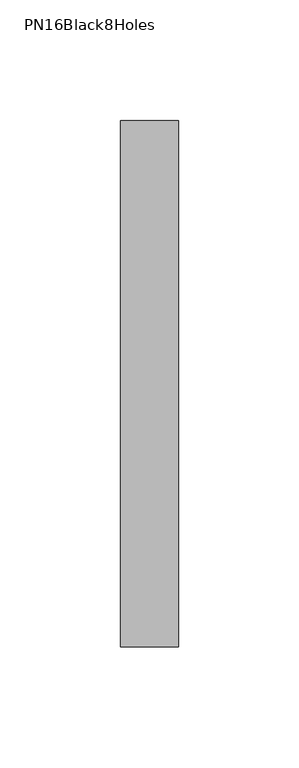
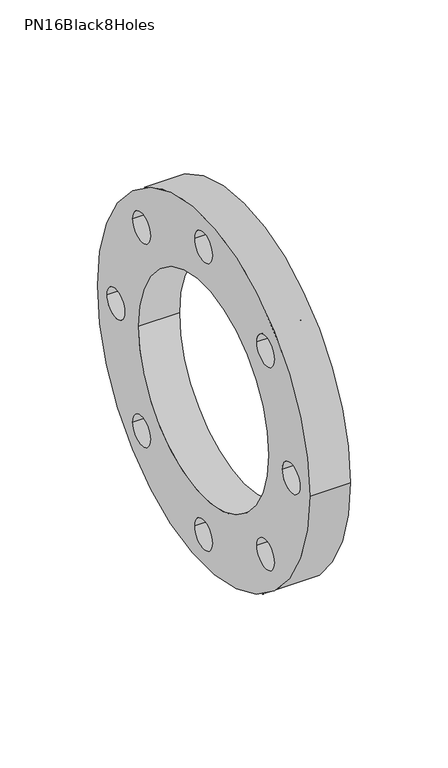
"""IFC4 building model written with IfcOpenShell, lengths in millimetres: pipe fitting geometry, PipeAccessory_GirpiHTA_CPVC_BackingRingsPN16Black8HolesFlangeAndGasket : PN16Black8Holes."""

from ifc_helpers import new_model, si_unit, point, frame, frame_2d, origin, origin_2d, place, context, project, spatial, circle_curve, trimmed, segment, composite_curve, outline, extrude, source, transform, mapped, element, save


def pn16black8holes_365e30ae(model_context):
    return source(origin(), model_context, "Body", "SweptSolid", [
        extrude(outline(composite_curve([segment(trimmed(circle_curve(origin_2d(), 109.0), [point((-109.0, 0.0))], [point((109.0, 0.0))], False, "CARTESIAN"), True, "CONTINUOUS"), segment(trimmed(circle_curve(origin_2d(), 109.0), [point((109.0, 0.0))], [point((-109.0, 0.0))], False, "CARTESIAN"), True, "CONTINUOUS")], self_intersect=False), holes=[composite_curve([segment(trimmed(circle_curve(origin_2d(), 66.5), [point((-66.5, 0.0))], [point((66.5, 0.0))], True, "CARTESIAN"), True, "CONTINUOUS"), segment(trimmed(circle_curve(origin_2d(), 66.5), [point((66.5, 0.0))], [point((-66.5, 0.0))], True, "CARTESIAN"), True, "CONTINUOUS")], self_intersect=False), composite_curve([segment(trimmed(circle_curve(frame_2d((0.0, 90.0)), 9.0), [point((-9.0, 90.0))], [point((9.0, 90.0))], True, "CARTESIAN"), True, "CONTINUOUS"), segment(trimmed(circle_curve(frame_2d((0.0, 90.0)), 9.0), [point((9.0, 90.0))], [point((-9.0, 90.0))], True, "CARTESIAN"), True, "CONTINUOUS")], self_intersect=False), composite_curve([segment(trimmed(circle_curve(frame_2d((90.0, 0.0)), 9.0), [point((81.0, 0.0))], [point((99.0, 0.0))], True, "CARTESIAN"), True, "CONTINUOUS"), segment(trimmed(circle_curve(frame_2d((90.0, 0.0)), 9.0), [point((99.0, 0.0))], [point((81.0, 0.0))], True, "CARTESIAN"), True, "CONTINUOUS")], self_intersect=False), composite_curve([segment(trimmed(circle_curve(frame_2d((0.0, -90.0)), 9.0), [point((-9.0, -90.0))], [point((9.0, -90.0))], True, "CARTESIAN"), True, "CONTINUOUS"), segment(trimmed(circle_curve(frame_2d((0.0, -90.0)), 9.0), [point((9.0, -90.0))], [point((-9.0, -90.0))], True, "CARTESIAN"), True, "CONTINUOUS")], self_intersect=False), composite_curve([segment(trimmed(circle_curve(frame_2d((-90.0, 0.0)), 9.0), [point((-99.0, 0.0))], [point((-81.0, 0.0))], True, "CARTESIAN"), True, "CONTINUOUS"), segment(trimmed(circle_curve(frame_2d((-90.0, 0.0)), 9.0), [point((-81.0, 0.0))], [point((-99.0, 0.0))], True, "CARTESIAN"), True, "CONTINUOUS")], self_intersect=False), composite_curve([segment(trimmed(circle_curve(frame_2d((-63.6396103, 63.6396103)), 9.0), [point((-72.6396103, 63.6396103))], [point((-54.6396103, 63.6396103))], True, "CARTESIAN"), True, "CONTINUOUS"), segment(trimmed(circle_curve(frame_2d((-63.6396103, 63.6396103)), 9.0), [point((-54.6396103, 63.6396103))], [point((-72.6396103, 63.6396103))], True, "CARTESIAN"), True, "CONTINUOUS")], self_intersect=False), composite_curve([segment(trimmed(circle_curve(frame_2d((63.6396103, -63.6396103)), 9.0), [point((54.6396103, -63.6396103))], [point((72.6396103, -63.6396103))], True, "CARTESIAN"), True, "CONTINUOUS"), segment(trimmed(circle_curve(frame_2d((63.6396103, -63.6396103)), 9.0), [point((72.6396103, -63.6396103))], [point((54.6396103, -63.6396103))], True, "CARTESIAN"), True, "CONTINUOUS")], self_intersect=False), composite_curve([segment(trimmed(circle_curve(frame_2d((-63.6396103, -63.6396103)), 9.0), [point((-72.6396103, -63.6396103))], [point((-54.6396103, -63.6396103))], True, "CARTESIAN"), True, "CONTINUOUS"), segment(trimmed(circle_curve(frame_2d((-63.6396103, -63.6396103)), 9.0), [point((-54.6396103, -63.6396103))], [point((-72.6396103, -63.6396103))], True, "CARTESIAN"), True, "CONTINUOUS")], self_intersect=False), composite_curve([segment(trimmed(circle_curve(frame_2d((63.6396103, 63.6396103)), 9.0), [point((54.6396103, 63.6396103))], [point((72.6396103, 63.6396103))], True, "CARTESIAN"), True, "CONTINUOUS"), segment(trimmed(circle_curve(frame_2d((63.6396103, 63.6396103)), 9.0), [point((72.6396103, 63.6396103))], [point((54.6396103, 63.6396103))], True, "CARTESIAN"), True, "CONTINUOUS")], self_intersect=False)]), frame((-12.0, 0.0, 0.0), z_axis=(1.0, 0.0, 0.0), x_axis=(0.0, 1.0, 0.0)), (0.0, 0.0, 1.0), 24.0),
    ])


if __name__ == "__main__":
    model = new_model("IFC4")
    model_context = context("Model", 3, world=origin())
    ifc_project = project(units=[si_unit("LENGTHUNIT", "METRE", prefix="MILLI")], contexts=[model_context])
    site = spatial("IfcSite", under=ifc_project)
    building = spatial("IfcBuilding", under=site)
    placement = place(None, origin())
    pn16black8holes_shape = pn16black8holes_365e30ae(model_context)
    element("IfcPipeFitting", 1, ObjectType="PipeAccessory_GirpiHTA_CPVC_BackingRingsPN16Black8HolesFlangeAndGasket : PN16Black8Holes", at=placement, inside=building, context=model_context, shape_type="MappedRepresentation", body=[
        mapped(pn16black8holes_shape, transform((0.0, 0.0, 0.0), x_axis=(1.0, 0.0, 0.0), y_axis=(0.0, 1.0, 0.0), z_axis=(0.0, 0.0, 1.0))),
    ])
    save(model, "model.ifc")
